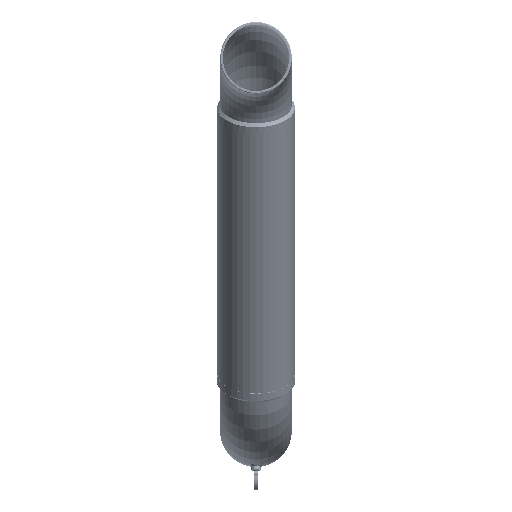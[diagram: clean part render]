
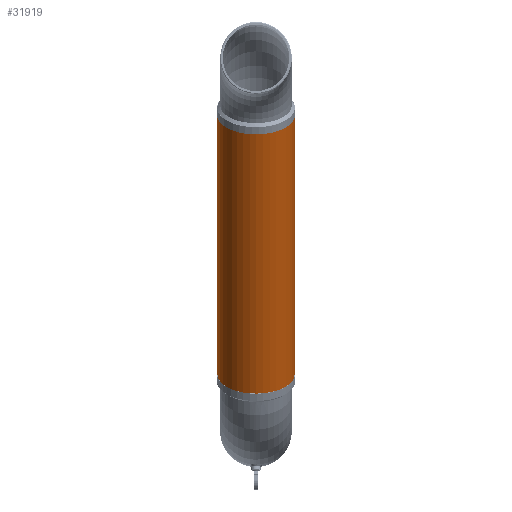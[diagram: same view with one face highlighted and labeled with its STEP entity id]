
A CAD part, front view. The second image highlights one B-rep face of the part: STEP entity #31919.
In plain terms, the highlighted cylindrical face has radius 117.983 mm (diameter 235.966 mm), a full revolution.
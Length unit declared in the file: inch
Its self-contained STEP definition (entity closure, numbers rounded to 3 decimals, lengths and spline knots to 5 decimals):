
#31892=CARTESIAN_POINT('',(0.0,0.0,0.0));
#31893=DIRECTION('',(0.0,0.0,1.0));
#31894=DIRECTION('',(-1.0,0.0,0.0));
#31895=AXIS2_PLACEMENT_3D('',#31892,#31893,#31894);
#31896=CYLINDRICAL_SURFACE('',#31895,4.645);
#31897=CARTESIAN_POINT('',(4.645,0.,38.133));
#31898=VERTEX_POINT('',#31897);
#31899=CARTESIAN_POINT('',(0.0,0.0,38.133));
#31900=DIRECTION('',(0.0,0.0,-1.0));
#31901=DIRECTION('',(-1.0,0.0,0.0));
#31902=AXIS2_PLACEMENT_3D('',#31899,#31900,#31901);
#31903=CIRCLE('',#31902,4.645);
#31904=EDGE_CURVE('',#31898,#31898,#31903,.T.);
#31905=ORIENTED_EDGE('',*,*,#31904,.T.);
#31906=EDGE_LOOP('',(#31905));
#31907=FACE_OUTER_BOUND('',#31906,.T.);
#31908=CARTESIAN_POINT('',(4.645,0.,0.0));
#31909=VERTEX_POINT('',#31908);
#31910=CARTESIAN_POINT('',(0.0,0.0,0.0));
#31911=DIRECTION('',(0.0,0.0,-1.0));
#31912=DIRECTION('',(-1.0,0.0,0.0));
#31913=AXIS2_PLACEMENT_3D('',#31910,#31911,#31912);
#31914=CIRCLE('',#31913,4.645);
#31915=EDGE_CURVE('',#31909,#31909,#31914,.T.);
#31916=ORIENTED_EDGE('',*,*,#31915,.F.);
#31917=EDGE_LOOP('',(#31916));
#31918=FACE_BOUND('',#31917,.T.);
#31919=ADVANCED_FACE('',(#31907,#31918),#31896,.T.);
